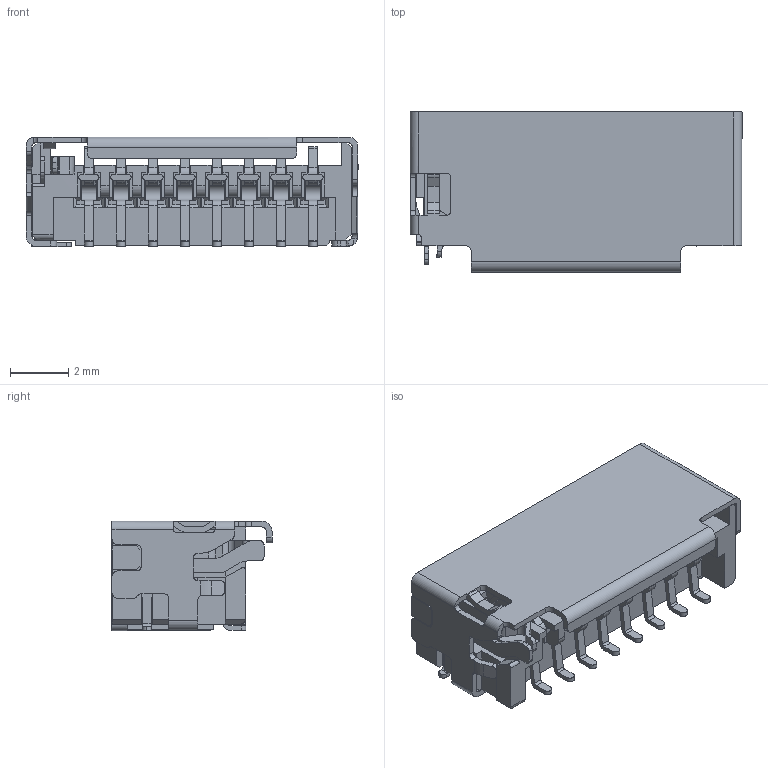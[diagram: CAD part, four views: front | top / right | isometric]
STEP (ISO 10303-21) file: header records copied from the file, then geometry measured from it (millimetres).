
FILE_DESCRIPTION (( 'STEP AP214' ), '1' );
FILE_NAME ('TF-SMD_HYCW104-TF08-375B.STEP', '2023-12-21T09:13:31', ( '' ), ( '' ), 'SwSTEP 2.0', 'SolidWorks 2020', '' );
FILE_SCHEMA (( 'AUTOMOTIVE_DESIGN' ));
Length unit declared in the file: millimetre
Products named in the file (1): TF-SMD_HYCW104-TF08-375B
Bounding box: 11.41 x 5.5 x 3.77 mm (x, y, z)
Volume: 105.4 mm3; surface area: 547 mm2
Topology: 1 solids, 1 shells, 1195 faces, 3548 edges, 2323 vertices
Faces by surface type: plane 767, cylinder 328, bspline 100
Entity records: 54541 total; most frequent: CARTESIAN_POINT 11125, ORIENTED_EDGE 7096, DIRECTION 5112, EDGE_CURVE 3548, VECTOR 2438, LINE 2438, VERTEX_POINT 2323, AXIS2_PLACEMENT_3D 1337
